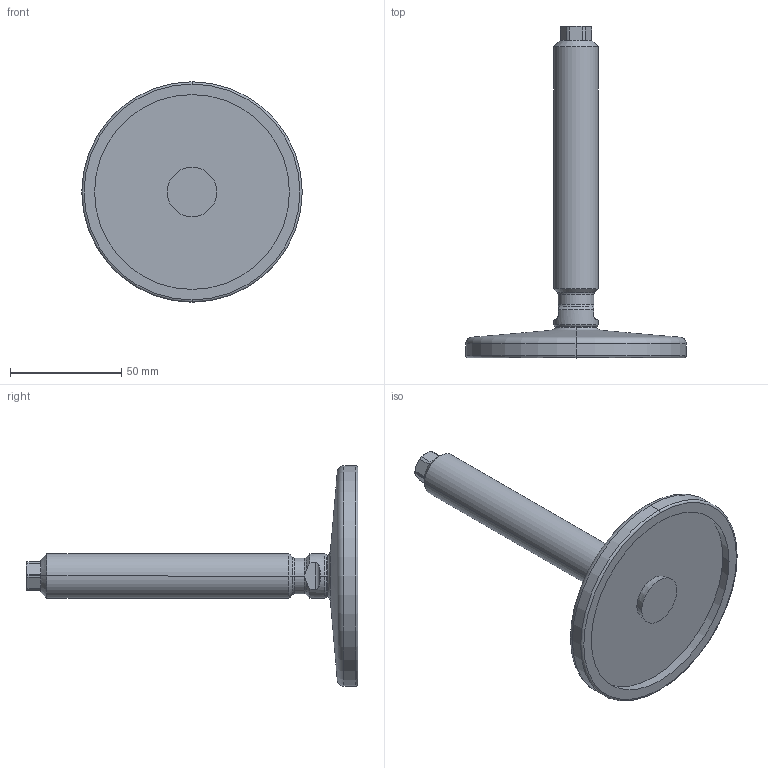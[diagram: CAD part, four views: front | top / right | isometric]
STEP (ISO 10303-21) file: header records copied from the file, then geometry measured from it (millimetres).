
FILE_DESCRIPTION (( 'STEP AP214' ), '1' );
FILE_NAME ('21-100-M20-125-D0-V.step', '2020-10-02T17:36:45', ( '' ), ( '' ), 'SwSTEP 2.0', 'SolidWorks 2019', '' );
FILE_SCHEMA (( 'AUTOMOTIVE_DESIGN' ));
Length unit declared in the file: millimetre
Products named in the file (3): 21-100-M20-125-D0-V; WB21_Fußteller 21^WB21_V_D0-100-R12-B9 (M20); WB21_Spindel_V^WB21_V_M20-125
Assembly tree (2 placements, depth 2):
  21-100-M20-125-D0-V
    WB21_Fußteller 21^WB21_V_D0-100-R12-B9 (M20)
    WB21_Spindel_V^WB21_V_M20-125
Bounding box: 99 x 149.02 x 99 mm (x, y, z)
Volume: 94254.7 mm3; surface area: 28720 mm2
Topology: 2 solids, 2 shells, 79 faces, 177 edges, 105 vertices
Faces by surface type: cylinder 23, cone 21, plane 21, torus 10, sphere 4
Entity records: 2434 total; most frequent: CARTESIAN_POINT 518, DIRECTION 406, ORIENTED_EDGE 354, EDGE_CURVE 177, AXIS2_PLACEMENT_3D 173, VERTEX_POINT 105, CIRCLE 89, EDGE_LOOP 82
